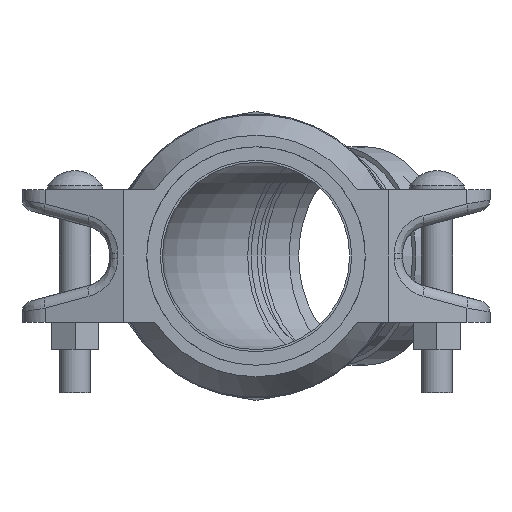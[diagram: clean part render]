
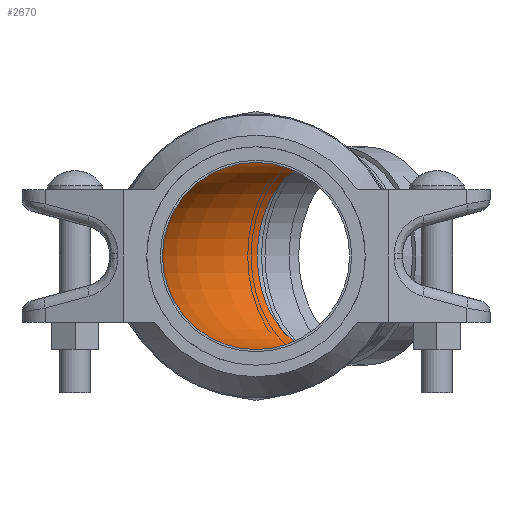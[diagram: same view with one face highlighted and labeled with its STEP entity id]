
A CAD part, left-side view. The second image highlights one B-rep face of the part: STEP entity #2670.
In plain terms, the highlighted toroidal (fillet/blend) face has major radius 95.783 mm and minor radius 38.964 mm.
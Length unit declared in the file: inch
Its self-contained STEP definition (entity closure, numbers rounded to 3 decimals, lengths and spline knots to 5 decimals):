
#124=TOROIDAL_SURFACE('',#2932,3.771,1.534);
#565=FACE_OUTER_BOUND('',#718,.T.);
#718=EDGE_LOOP('',(#1702,#1703,#1704,#1705,#1706,#1707));
#897=CIRCLE('',#2933,1.534);
#898=CIRCLE('',#2934,1.534);
#899=CIRCLE('',#2935,2.237);
#900=CIRCLE('',#2936,1.534);
#901=CIRCLE('',#2937,1.534);
#1043=VERTEX_POINT('',#4094);
#1044=VERTEX_POINT('',#4095);
#1045=VERTEX_POINT('',#4098);
#1046=VERTEX_POINT('',#4100);
#1305=EDGE_CURVE('',#1043,#1044,#897,.T.);
#1306=EDGE_CURVE('',#1044,#1043,#898,.T.);
#1307=EDGE_CURVE('',#1043,#1045,#899,.T.);
#1308=EDGE_CURVE('',#1045,#1046,#900,.T.);
#1309=EDGE_CURVE('',#1046,#1045,#901,.T.);
#1702=ORIENTED_EDGE('',*,*,#1305,.T.);
#1703=ORIENTED_EDGE('',*,*,#1306,.T.);
#1704=ORIENTED_EDGE('',*,*,#1307,.T.);
#1705=ORIENTED_EDGE('',*,*,#1308,.T.);
#1706=ORIENTED_EDGE('',*,*,#1309,.T.);
#1707=ORIENTED_EDGE('',*,*,#1307,.F.);
#2670=ADVANCED_FACE('',(#565),#124,.F.);
#2932=AXIS2_PLACEMENT_3D('',#4093,#3280,#3281);
#2933=AXIS2_PLACEMENT_3D('',#4096,#3282,#3283);
#2934=AXIS2_PLACEMENT_3D('',#4097,#3284,#3285);
#2935=AXIS2_PLACEMENT_3D('',#4099,#3286,#3287);
#2936=AXIS2_PLACEMENT_3D('',#4101,#3288,#3289);
#2937=AXIS2_PLACEMENT_3D('',#4102,#3290,#3291);
#3280=DIRECTION('center_axis',(0.,0.,-1.));
#3281=DIRECTION('ref_axis',(-1.,0.,0.));
#3282=DIRECTION('center_axis',(0.,-1.,0.));
#3283=DIRECTION('ref_axis',(1.,0.,0.));
#3284=DIRECTION('center_axis',(0.,-1.,0.));
#3285=DIRECTION('ref_axis',(1.,0.,0.));
#3286=DIRECTION('center_axis',(0.,0.,-1.));
#3287=DIRECTION('ref_axis',(-1.,0.,0.));
#3288=DIRECTION('center_axis',(0.707,0.707,0.));
#3289=DIRECTION('ref_axis',(0.707,-0.707,0.));
#3290=DIRECTION('center_axis',(0.707,0.707,0.));
#3291=DIRECTION('ref_axis',(0.707,-0.707,0.));
#4093=CARTESIAN_POINT('Origin',(3.771,0.938,0.));
#4094=CARTESIAN_POINT('',(1.534,0.938,0.));
#4095=CARTESIAN_POINT('',(-1.534,0.938,0.));
#4096=CARTESIAN_POINT('Origin',(0.,0.938,0.));
#4097=CARTESIAN_POINT('Origin',(0.,0.938,0.));
#4098=CARTESIAN_POINT('',(2.1892,2.5198,0.));
#4099=CARTESIAN_POINT('Origin',(3.771,0.938,0.));
#4100=CARTESIAN_POINT('',(0.0198,4.6892,0.));
#4101=CARTESIAN_POINT('Origin',(1.1045,3.6045,0.));
#4102=CARTESIAN_POINT('Origin',(1.1045,3.6045,0.));
